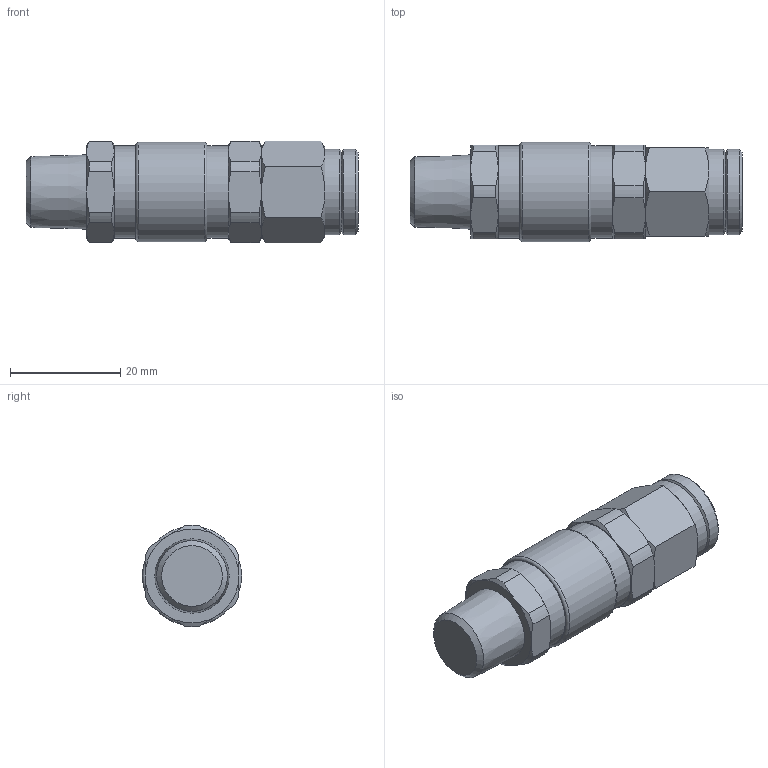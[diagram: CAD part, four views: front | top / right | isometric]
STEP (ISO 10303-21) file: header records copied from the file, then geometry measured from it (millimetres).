
FILE_DESCRIPTION(/* description */ (''),/* implementation_level */ '2;1');
FILE_NAME(/* name */ 'E:\2013年度版　3D-DATA\【18】 FREE-ANGLE FITTING\[01] FAM-H\[02] 2FA2M-6.5H.stp',/* time_stamp */ '2013-08-05T15:34:29+09:00',/* author */ ('takahashi-pc2'),/* organization */ (''),/* preprocessor_version */ 'ST-DEVELOPER v15.2',/* originating_system */ 'Autodesk Inventor 2014',/* authorisation */ '');
FILE_SCHEMA (('AUTOMOTIVE_DESIGN { 1 0 10303 214 3 1 1 }'));
Length unit declared in the file: millimetre
Products named in the file (4): SHAFT2; 2-2M; 2-6.5H; [02] 2FA2M-6.5H
Bounding box: 60.2 x 18 x 18.49 mm (x, y, z)
Volume: 11939.9 mm3; surface area: 5278.3 mm2
Topology: 3 solids, 3 shells, 99 faces, 218 edges, 131 vertices
Faces by surface type: cone 43, plane 30, cylinder 20, sphere 4, torus 2
Full cylindrical faces by diameter (mm): 5 x2, 10 x1, 15.5 x2, 16.7 x2, 18 x1
Entity records: 2526 total; most frequent: CARTESIAN_POINT 562, DIRECTION 416, ORIENTED_EDGE 378, AXIS2_PLACEMENT_3D 193, EDGE_CURVE 189, EDGE_LOOP 126, VERTEX_POINT 123, ADVANCED_FACE 99
